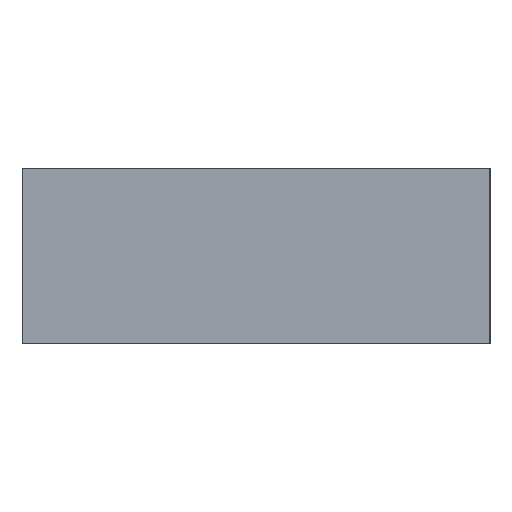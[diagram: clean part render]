
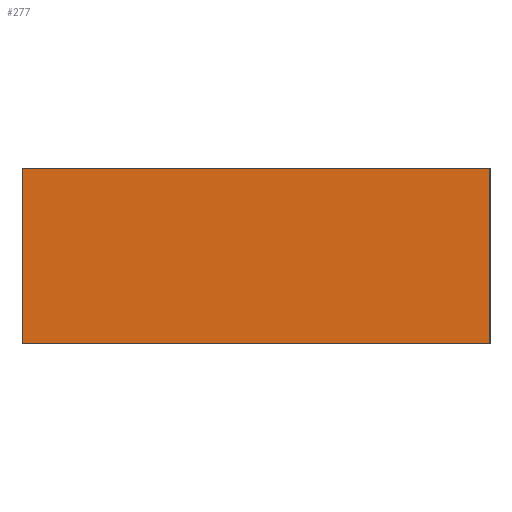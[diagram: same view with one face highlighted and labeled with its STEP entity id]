
A CAD part, left-side view. The second image highlights one B-rep face of the part: STEP entity #277.
In plain terms, the highlighted planar face has unit normal (-1, 0, 0).
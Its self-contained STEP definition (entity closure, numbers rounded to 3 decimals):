
#277=ADVANCED_FACE('',(#523),#525,.T.);
#523=FACE_BOUND('',#524,.T.);
#524=EDGE_LOOP('',(#700,#701,#702,#703));
#525=PLANE('',#526);
#526=AXIS2_PLACEMENT_3D('',#527,#528,#529);
#527=CARTESIAN_POINT('',(-1.6,-0.8,0.));
#528=DIRECTION('',(-1.,0.,0.));
#529=DIRECTION('',(0.,0.,1.));
#700=ORIENTED_EDGE('',*,*,#784,.T.);
#701=ORIENTED_EDGE('',*,*,#800,.T.);
#702=ORIENTED_EDGE('',*,*,#798,.F.);
#703=ORIENTED_EDGE('',*,*,#801,.F.);
#784=EDGE_CURVE('',#884,#885,#886,.T.);
#798=EDGE_CURVE('',#908,#900,#910,.T.);
#800=EDGE_CURVE('',#885,#900,#912,.T.);
#801=EDGE_CURVE('',#884,#908,#913,.T.);
#884=VERTEX_POINT('',#1084);
#885=VERTEX_POINT('',#1085);
#886=LINE('',#1086,#1087);
#900=VERTEX_POINT('',#1118);
#908=VERTEX_POINT('',#1134);
#910=LINE('',#1138,#1139);
#912=LINE('',#1144,#1145);
#913=LINE('',#1147,#1148);
#1084=CARTESIAN_POINT('',(-1.6,-0.8,0.));
#1085=CARTESIAN_POINT('',(-1.6,-0.8,0.6));
#1086=CARTESIAN_POINT('',(-1.6,-0.8,0.));
#1087=VECTOR('',#1088,1.);
#1088=DIRECTION('',(0.,0.,1.));
#1118=CARTESIAN_POINT('',(-1.6,0.8,0.6));
#1134=CARTESIAN_POINT('',(-1.6,0.8,0.));
#1138=CARTESIAN_POINT('',(-1.6,0.8,0.));
#1139=VECTOR('',#1140,1.);
#1140=DIRECTION('',(0.,0.,1.));
#1144=CARTESIAN_POINT('',(-1.6,-0.8,0.6));
#1145=VECTOR('',#1146,1.);
#1146=DIRECTION('',(0.,1.,0.));
#1147=CARTESIAN_POINT('',(-1.6,-0.8,0.));
#1148=VECTOR('',#1149,1.);
#1149=DIRECTION('',(0.,1.,0.));
